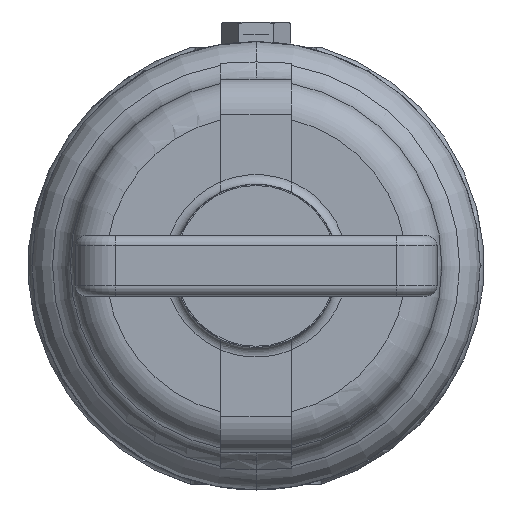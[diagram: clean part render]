
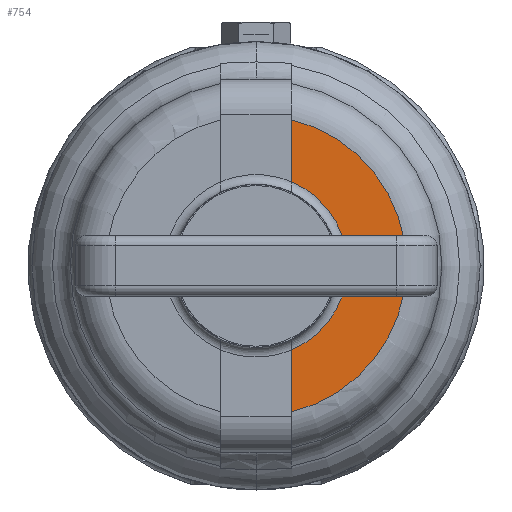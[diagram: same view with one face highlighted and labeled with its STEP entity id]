
A CAD part, left-side view. The second image highlights one B-rep face of the part: STEP entity #754.
In plain terms, the highlighted planar face has unit normal (-1, 0, 0).
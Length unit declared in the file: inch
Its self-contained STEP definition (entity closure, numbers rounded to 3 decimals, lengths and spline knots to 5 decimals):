
#29=DIRECTION('',(0.,0.,1.));
#30=VECTOR('',#29,0.77126);
#31=CARTESIAN_POINT('',(-11.1,-0.44,-1.8175));
#32=LINE('',#31,#30);
#33=CARTESIAN_POINT('',(-11.1,0.,0.));
#34=DIRECTION('',(-1.,0.,0.));
#35=DIRECTION('',(0.,-0.388,-0.922));
#36=AXIS2_PLACEMENT_3D('',#33,#34,#35);
#38=DIRECTION('',(0.,0.,1.));
#39=VECTOR('',#38,0.77126);
#40=CARTESIAN_POINT('',(-11.1,-0.44,1.04624));
#41=LINE('',#40,#39);
#53=CARTESIAN_POINT('',(-11.1,0.,0.));
#54=DIRECTION('',(-1.,0.,0.));
#55=DIRECTION('',(0.,-0.235,-0.972));
#56=AXIS2_PLACEMENT_3D('',#53,#54,#55);
#595=CARTESIAN_POINT('',(-11.1,-0.44,-1.8175));
#596=CARTESIAN_POINT('',(-11.1,-0.44,-1.04624));
#597=VERTEX_POINT('',#595);
#598=VERTEX_POINT('',#596);
#599=CARTESIAN_POINT('',(-11.1,-0.44,1.04624));
#600=CARTESIAN_POINT('',(-11.1,-0.44,1.8175));
#601=VERTEX_POINT('',#599);
#602=VERTEX_POINT('',#600);
#740=CARTESIAN_POINT('',(-11.1,0.,0.));
#741=DIRECTION('',(-1.,0.,0.));
#742=DIRECTION('',(0.,0.,1.));
#743=AXIS2_PLACEMENT_3D('',#740,#741,#742);
#744=PLANE('',#743);
#746=ORIENTED_EDGE('',*,*,#745,.T.);
#747=ORIENTED_EDGE('',*,*,#704,.T.);
#749=ORIENTED_EDGE('',*,*,#748,.T.);
#751=ORIENTED_EDGE('',*,*,#750,.F.);
#752=EDGE_LOOP('',(#746,#747,#749,#751));
#753=FACE_OUTER_BOUND('',#752,.F.);
#754=ADVANCED_FACE('',(#753),#744,.T.);
#37=CIRCLE('',#36,1.135);
#57=CIRCLE('',#56,1.87);
#704=EDGE_CURVE('',#598,#601,#37,.T.);
#745=EDGE_CURVE('',#597,#598,#32,.T.);
#748=EDGE_CURVE('',#601,#602,#41,.T.);
#750=EDGE_CURVE('',#597,#602,#57,.T.);
